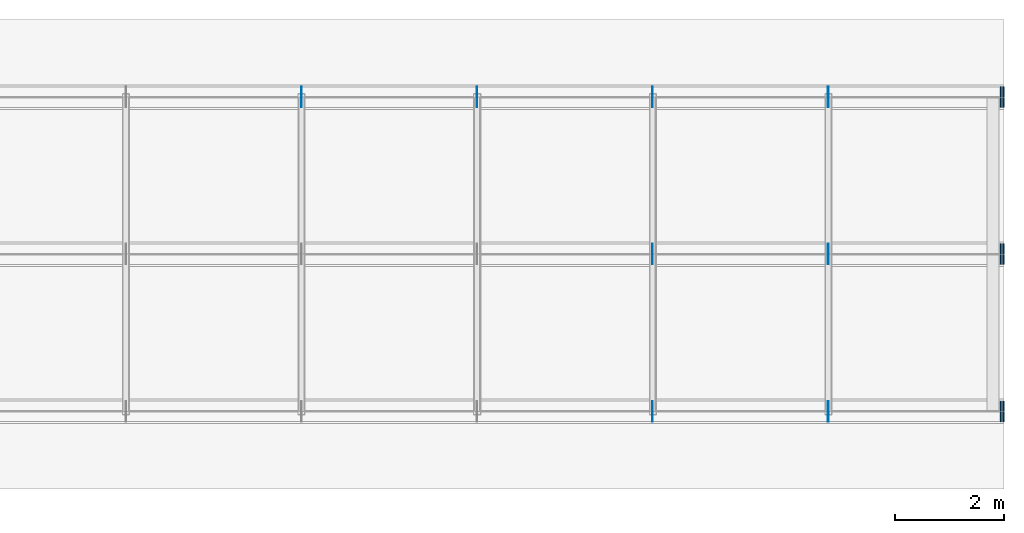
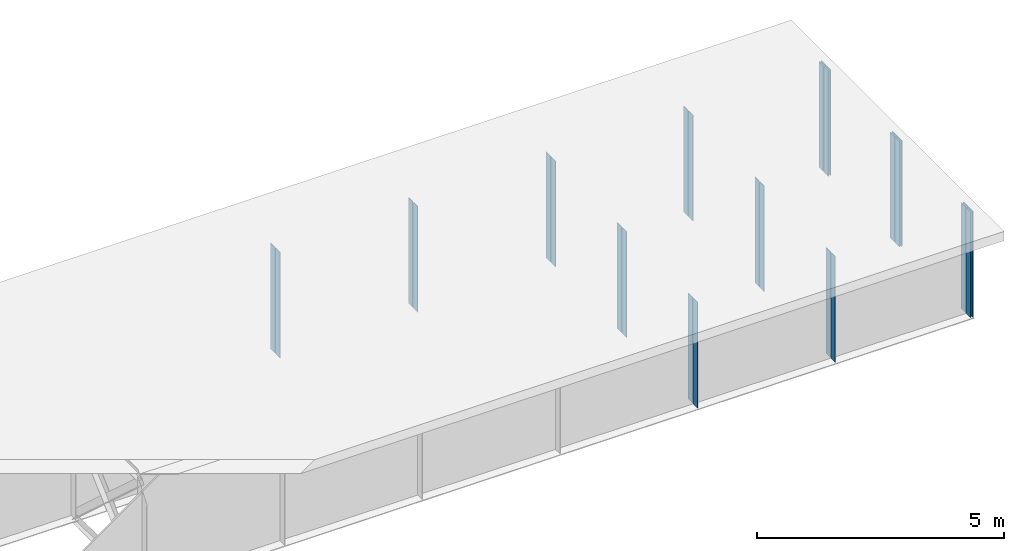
# One storey, part 12 of 12: 28 plates.
"""IFC4 building model written with IfcOpenShell, lengths in metres."""

from ifc_helpers import new_model, si_unit, frame, origin, origin_with_axes, origin_2d_with_axis, place, context, subcontext, project, spatial, rectangle, extrude, element, save


model = new_model("IFC4")

# Units and contexts
model_context = context("Model", 3, precision=1e-05, world=origin())
body_context = subcontext(model_context, "Body", "Model", "MODEL_VIEW")
ifc_project = project(units=[si_unit("LENGTHUNIT", "METRE"), si_unit("AREAUNIT", "SQUARE_METRE"), si_unit("VOLUMEUNIT", "CUBIC_METRE"), si_unit("PLANEANGLEUNIT", "RADIAN")], contexts=[model_context])

# Site, building, storey
site_placement = place(None, origin_with_axes())
site = spatial("IfcSite", under=ifc_project, at=site_placement, Name="Default Site")
building_placement = place(site_placement, origin_with_axes())
building = spatial("IfcBuilding", under=site, at=building_placement, Name="Bridge Structure")
storey_placement = place(building_placement, origin_with_axes())
storey = spatial("IfcBuildingStorey", under=building, at=storey_placement, Name="Superstructure")

# Plates
for number, where, z_axis, x_axis, name in (
    (1, (38.568, -2.77575, -1.305), (0.0, 0.0, 1.0), (1.0, 0.0, 0.0), "Intermediate Stiffener 1"),
    (2, (38.568, -2.97425, -1.305), (0.0, 0.0, 1.0), (1.0, 0.0, 0.0), "Intermediate Stiffener 1"),
    (3, (41.782000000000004, -2.77575, -1.305), (0.0, 0.0, 1.0), (1.0, 0.0, 0.0), "Intermediate Stiffener 1"),
    (4, (41.782000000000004, -2.97425, -1.305), (0.0, 0.0, 1.0), (1.0, 0.0, 0.0), "Intermediate Stiffener 1"),
):
    element("IfcPlate", number, at=place(storey_placement, frame(where, z_axis=z_axis, x_axis=x_axis)), inside=storey, Name=name, context=body_context, shape_type="SweptSolid", body=[
        extrude(rectangle(XDim=0.012, YDim=0.1765, at=origin_2d_with_axis()), origin_with_axes(), (0.0, 0.0, 1.0), 2.61),
    ])
for number, where, z_axis, x_axis, name in (
    (5, (44.99, -2.77575, -1.305), (0.0, 0.0, 1.0), (1.0, 0.0, 0.0), "End Stiffener 1"),
    (6, (44.99, -2.97425, -1.305), (0.0, 0.0, 1.0), (1.0, 0.0, 0.0), "End Stiffener 1"),
    (7, (44.94, -2.77575, -1.305), (0.0, 0.0, 1.0), (1.0, 0.0, 0.0), "End Stiffener 1"),
    (8, (44.94, -2.97425, -1.305), (0.0, 0.0, 1.0), (1.0, 0.0, 0.0), "End Stiffener 1"),
):
    element("IfcPlate", number, at=place(storey_placement, frame(where, z_axis=z_axis, x_axis=x_axis)), inside=storey, Name=name, context=body_context, shape_type="SweptSolid", body=[
        extrude(rectangle(XDim=0.02, YDim=0.1765, at=origin_2d_with_axis()), origin_with_axes(), (0.0, 0.0, 1.0), 2.61),
    ])
for number, where, z_axis, x_axis, name in (
    (9, (38.568, 0.09925, -1.305), (0.0, 0.0, 1.0), (1.0, 0.0, 0.0), "Intermediate Stiffener 2"),
    (10, (38.568, -0.09925, -1.305), (0.0, 0.0, 1.0), (1.0, 0.0, 0.0), "Intermediate Stiffener 2"),
    (11, (41.782000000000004, 0.09925, -1.305), (0.0, 0.0, 1.0), (1.0, 0.0, 0.0), "Intermediate Stiffener 2"),
    (12, (41.782000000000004, -0.09925, -1.305), (0.0, 0.0, 1.0), (1.0, 0.0, 0.0), "Intermediate Stiffener 2"),
):
    element("IfcPlate", number, at=place(storey_placement, frame(where, z_axis=z_axis, x_axis=x_axis)), inside=storey, Name=name, context=body_context, shape_type="SweptSolid", body=[
        extrude(rectangle(XDim=0.012, YDim=0.1765, at=origin_2d_with_axis()), origin_with_axes(), (0.0, 0.0, 1.0), 2.61),
    ])
for number, where, z_axis, x_axis, name in (
    (13, (44.99, 0.09925, -1.305), (0.0, 0.0, 1.0), (1.0, 0.0, 0.0), "End Stiffener 2"),
    (14, (44.99, -0.09925, -1.305), (0.0, 0.0, 1.0), (1.0, 0.0, 0.0), "End Stiffener 2"),
    (15, (44.94, 0.09925, -1.305), (0.0, 0.0, 1.0), (1.0, 0.0, 0.0), "End Stiffener 2"),
    (16, (44.94, -0.09925, -1.305), (0.0, 0.0, 1.0), (1.0, 0.0, 0.0), "End Stiffener 2"),
):
    element("IfcPlate", number, at=place(storey_placement, frame(where, z_axis=z_axis, x_axis=x_axis)), inside=storey, Name=name, context=body_context, shape_type="SweptSolid", body=[
        extrude(rectangle(XDim=0.02, YDim=0.1765, at=origin_2d_with_axis()), origin_with_axes(), (0.0, 0.0, 1.0), 2.61),
    ])
for number, where, z_axis, x_axis, name in (
    (17, (32.14, 2.97425, -1.305), (0.0, 0.0, 1.0), (1.0, 0.0, 0.0), "Intermediate Stiffener 3"),
    (18, (32.14, 2.77575, -1.305), (0.0, 0.0, 1.0), (1.0, 0.0, 0.0), "Intermediate Stiffener 3"),
    (19, (35.354, 2.97425, -1.305), (0.0, 0.0, 1.0), (1.0, 0.0, 0.0), "Intermediate Stiffener 3"),
    (20, (35.354, 2.77575, -1.305), (0.0, 0.0, 1.0), (1.0, 0.0, 0.0), "Intermediate Stiffener 3"),
    (21, (38.568, 2.97425, -1.305), (0.0, 0.0, 1.0), (1.0, 0.0, 0.0), "Intermediate Stiffener 3"),
    (22, (38.568, 2.77575, -1.305), (0.0, 0.0, 1.0), (1.0, 0.0, 0.0), "Intermediate Stiffener 3"),
    (23, (41.782000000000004, 2.97425, -1.305), (0.0, 0.0, 1.0), (1.0, 0.0, 0.0), "Intermediate Stiffener 3"),
    (24, (41.782000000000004, 2.77575, -1.305), (0.0, 0.0, 1.0), (1.0, 0.0, 0.0), "Intermediate Stiffener 3"),
):
    element("IfcPlate", number, at=place(storey_placement, frame(where, z_axis=z_axis, x_axis=x_axis)), inside=storey, Name=name, context=body_context, shape_type="SweptSolid", body=[
        extrude(rectangle(XDim=0.012, YDim=0.1765, at=origin_2d_with_axis()), origin_with_axes(), (0.0, 0.0, 1.0), 2.61),
    ])
for number, where, z_axis, x_axis, name in (
    (25, (44.99, 2.97425, -1.305), (0.0, 0.0, 1.0), (1.0, 0.0, 0.0), "End Stiffener 3"),
    (26, (44.99, 2.77575, -1.305), (0.0, 0.0, 1.0), (1.0, 0.0, 0.0), "End Stiffener 3"),
    (27, (44.94, 2.97425, -1.305), (0.0, 0.0, 1.0), (1.0, 0.0, 0.0), "End Stiffener 3"),
    (28, (44.94, 2.77575, -1.305), (0.0, 0.0, 1.0), (1.0, 0.0, 0.0), "End Stiffener 3"),
):
    element("IfcPlate", number, at=place(storey_placement, frame(where, z_axis=z_axis, x_axis=x_axis)), inside=storey, Name=name, context=body_context, shape_type="SweptSolid", body=[
        extrude(rectangle(XDim=0.02, YDim=0.1765, at=origin_2d_with_axis()), origin_with_axes(), (0.0, 0.0, 1.0), 2.61),
    ])

save(model, "model.ifc")
